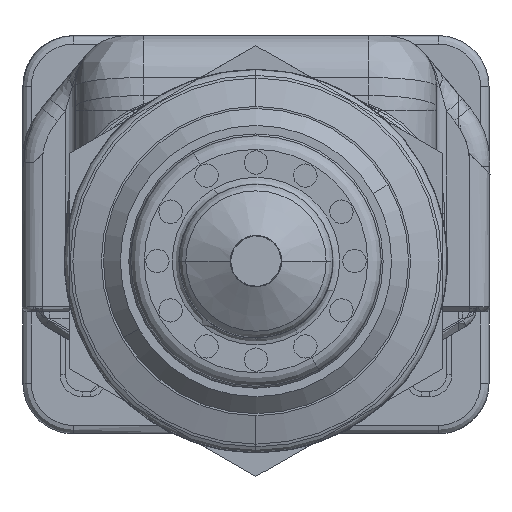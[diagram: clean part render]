
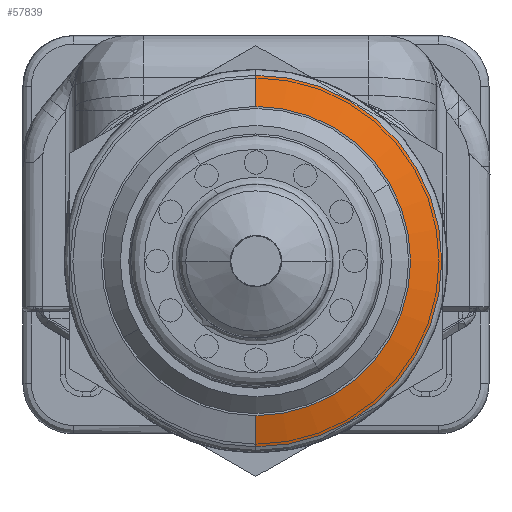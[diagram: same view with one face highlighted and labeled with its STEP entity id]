
A CAD part, left-side view. The second image highlights one B-rep face of the part: STEP entity #57839.
In plain terms, the highlighted conical face has half-angle 71.609 degrees and reference radius 9.121 mm.
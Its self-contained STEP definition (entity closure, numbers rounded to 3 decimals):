
#57677=AXIS2_PLACEMENT_3D('Circle Axis2P3D',#57675,#57676,$) ;
#57684=AXIS2_PLACEMENT_3D('Circle Axis2P3D',#57682,#57683,$) ;
#57803=AXIS2_PLACEMENT_3D('Cone Axis2P3D',#57800,#57801,#57802) ;
#57814=AXIS2_PLACEMENT_3D('Circle Axis2P3D',#57812,#57813,$) ;
#57821=AXIS2_PLACEMENT_3D('Circle Axis2P3D',#57819,#57820,$) ;
#57665=CARTESIAN_POINT('Vertex',(26.411,0.,-10.958)) ;
#57672=CARTESIAN_POINT('Vertex',(26.411,0.,10.958)) ;
#57675=CARTESIAN_POINT('Axis2P3D Location',(26.411,0.,0.)) ;
#57679=CARTESIAN_POINT('Vertex',(26.411,-10.958,0.)) ;
#57682=CARTESIAN_POINT('Axis2P3D Location',(26.411,0.,0.)) ;
#57800=CARTESIAN_POINT('Axis2P3D Location',(25.8,0.,0.)) ;
#57805=CARTESIAN_POINT('Line Origine',(157776.174,0.,474466.721)) ;
#57809=CARTESIAN_POINT('Vertex',(25.8,0.,9.121)) ;
#57812=CARTESIAN_POINT('Axis2P3D Location',(25.8,0.,0.)) ;
#57816=CARTESIAN_POINT('Vertex',(25.8,-9.121,0.)) ;
#57819=CARTESIAN_POINT('Axis2P3D Location',(25.8,0.,0.)) ;
#57823=CARTESIAN_POINT('Vertex',(25.8,0.,-9.121)) ;
#57826=CARTESIAN_POINT('Line Origine',(157776.174,0.,-474466.721)) ;
#57676=DIRECTION('Axis2P3D Direction',(-1.,0.,0.)) ;
#57683=DIRECTION('Axis2P3D Direction',(-1.,0.,0.)) ;
#57801=DIRECTION('Axis2P3D Direction',(1.,0.,0.)) ;
#57802=DIRECTION('Axis2P3D XDirection',(0.,0.,1.)) ;
#57806=DIRECTION('Vector Direction',(0.316,0.,0.949)) ;
#57813=DIRECTION('Axis2P3D Direction',(1.,0.,0.)) ;
#57820=DIRECTION('Axis2P3D Direction',(1.,0.,0.)) ;
#57827=DIRECTION('Vector Direction',(0.316,0.,-0.949)) ;
#57807=VECTOR('Line Direction',#57806,1.) ;
#57828=VECTOR('Line Direction',#57827,1.) ;
#57832=ORIENTED_EDGE('',*,*,#57811,.T.) ;
#57833=ORIENTED_EDGE('',*,*,#57818,.F.) ;
#57834=ORIENTED_EDGE('',*,*,#57825,.F.) ;
#57835=ORIENTED_EDGE('',*,*,#57830,.T.) ;
#57836=ORIENTED_EDGE('',*,*,#57686,.T.) ;
#57837=ORIENTED_EDGE('',*,*,#57681,.T.) ;
#57839=ADVANCED_FACE('PartBody',(#57838),#57804,.T.) ;
#57678=CIRCLE('generated circle',#57677,10.958) ;
#57685=CIRCLE('generated circle',#57684,10.958) ;
#57815=CIRCLE('generated circle',#57814,9.121) ;
#57822=CIRCLE('generated circle',#57821,9.121) ;
#57804=CONICAL_SURFACE('Cone',#57803,9.121,1.25) ;
#57681=EDGE_CURVE('',#57680,#57673,#57678,.T.) ;
#57686=EDGE_CURVE('',#57666,#57680,#57685,.T.) ;
#57811=EDGE_CURVE('',#57673,#57810,#57808,.F.) ;
#57818=EDGE_CURVE('',#57817,#57810,#57815,.F.) ;
#57825=EDGE_CURVE('',#57824,#57817,#57822,.F.) ;
#57830=EDGE_CURVE('',#57824,#57666,#57829,.T.) ;
#57831=EDGE_LOOP('',(#57832,#57833,#57834,#57835,#57836,#57837)) ;
#57838=FACE_OUTER_BOUND('',#57831,.T.) ;
#57808=LINE('Line',#57805,#57807) ;
#57829=LINE('Line',#57826,#57828) ;
#57666=VERTEX_POINT('',#57665) ;
#57673=VERTEX_POINT('',#57672) ;
#57680=VERTEX_POINT('',#57679) ;
#57810=VERTEX_POINT('',#57809) ;
#57817=VERTEX_POINT('',#57816) ;
#57824=VERTEX_POINT('',#57823) ;
